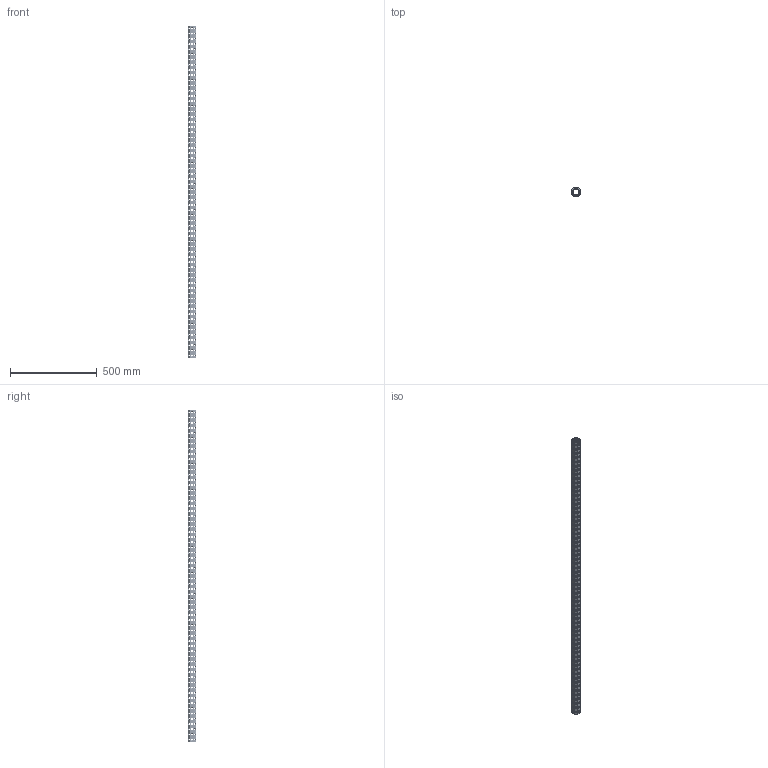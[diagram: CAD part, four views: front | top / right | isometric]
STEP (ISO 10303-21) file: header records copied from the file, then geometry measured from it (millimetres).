
FILE_DESCRIPTION(('CATIA V5 STEP Exchange'),'2;1');
FILE_NAME('U:\Room\唐宝山\EGT002\46-01-010293-01-EGT002-1918.stp','2021-08-24T01:43:21+00:00',('none'),('none'),'CATIA Version 5 Release 21 GA (IN-10)','CATIA V5 STEP AP203','none');
FILE_SCHEMA(('CONFIG_CONTROL_DESIGN'));
Products named in the file (1): 46-01-010293-01-EGT002-1918
Bounding box: 50 x 50 x 1918 mm (x, y, z)
Volume: 1366551.8 mm3; surface area: 658905.4 mm2
Topology: 1 solids, 1 shells, 2644 faces, 7286 edges, 4516 vertices
Faces by surface type: cone 1536, cylinder 1082, plane 26
Entity records: 108139 total; most frequent: CARTESIAN_POINT 44118, ORIENTED_EDGE 14572, DIRECTION 10292, EDGE_CURVE 7286, AXIS2_PLACEMENT_3D 4831, VERTEX_POINT 4516, EDGE_LOOP 3542, VECTOR 2818
